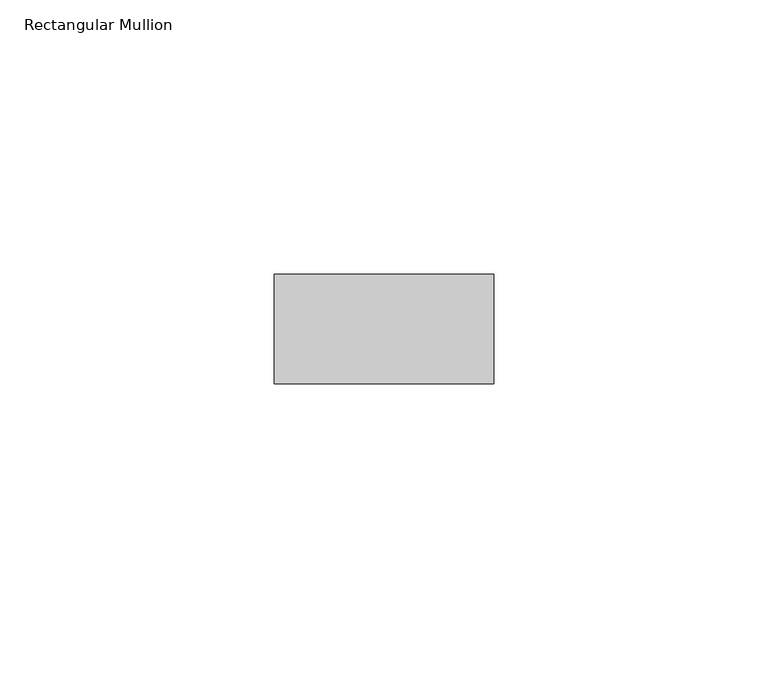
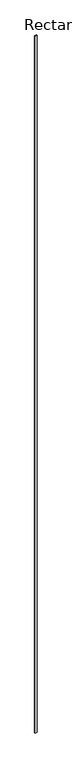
"""IFC4 building model written with IfcOpenShell, lengths in millimetres: member geometry, Rectangular Mullion : RIPA 4x2 cm."""

from ifc_helpers import new_model, si_unit, frame, origin, place, context, project, spatial, polyline, outline, extrude, source, transform, mapped, element, save


def rectangular_mullion_f0feb93f(model_context):
    return source(origin(), model_context, "Body", "SweptSolid", [
        extrude(outline(polyline([(0.0, 0.0), (0.0, -20.0), (-40.0, -20.0), (-40.0, 0.0), (0.0, 0.0)])), frame((0.0, 0.0, -16295.0), z_axis=(0.0, 0.0, 1.0), x_axis=(1.0, 0.0, 0.0)), (0.0, 0.0, 1.0), 16295.0),
    ])


if __name__ == "__main__":
    model = new_model("IFC4")
    model_context = context("Model", 3, world=origin())
    ifc_project = project(units=[si_unit("LENGTHUNIT", "METRE", prefix="MILLI")], contexts=[model_context])
    site = spatial("IfcSite", under=ifc_project)
    building = spatial("IfcBuilding", under=site)
    placement = place(None, origin())
    rectangular_mullion_shape = rectangular_mullion_f0feb93f(model_context)
    element("IfcMember", 1, ObjectType="Rectangular Mullion : RIPA 4x2 cm", at=placement, inside=building, context=model_context, shape_type="MappedRepresentation", body=[
        mapped(rectangular_mullion_shape, transform((0.0, 0.0, 0.0), x_axis=(1.0, 0.0, 0.0), y_axis=(0.0, 1.0, 0.0), z_axis=(0.0, 0.0, 1.0))),
    ])
    save(model, "model.ifc")
